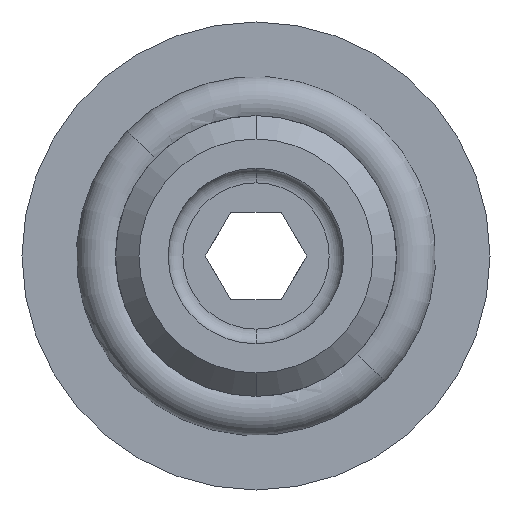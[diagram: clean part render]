
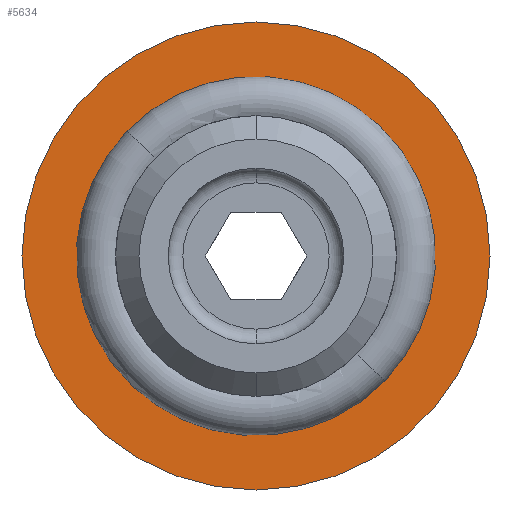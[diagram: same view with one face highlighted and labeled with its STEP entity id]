
A CAD part, front view. The second image highlights one B-rep face of the part: STEP entity #5634.
In plain terms, the highlighted planar face has unit normal (0, -1, 0).
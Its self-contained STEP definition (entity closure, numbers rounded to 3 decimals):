
#233 = CIRCLE ( 'NONE', #4922, 6.138 ) ;
#325 = DIRECTION ( 'NONE',  ( 0., 0., -1. ) ) ;
#383 = CARTESIAN_POINT ( 'NONE',  ( -4.403, 6., 4.277 ) ) ;
#590 = CIRCLE ( 'NONE', #4461, 8. ) ;
#657 = VERTEX_POINT ( 'NONE', #797 ) ;
#775 = DIRECTION ( 'NONE',  ( 0., 1., 0. ) ) ;
#797 = CARTESIAN_POINT ( 'NONE',  ( 0., 6., -8. ) ) ;
#1952 = CARTESIAN_POINT ( 'NONE',  ( -7.326, 6., 0. ) ) ;
#2191 = CARTESIAN_POINT ( 'NONE',  ( 0., 6., 0. ) ) ;
#2278 = DIRECTION ( 'NONE',  ( 0., -1., 0. ) ) ;
#2387 = FACE_BOUND ( 'NONE', #3771, .T. ) ;
#2431 = AXIS2_PLACEMENT_3D ( 'NONE', #3628, #2278, #4038 ) ;
#2473 = DIRECTION ( 'NONE',  ( 0., -1., 0. ) ) ;
#2484 = VERTEX_POINT ( 'NONE', #383 ) ;
#2510 = AXIS2_PLACEMENT_3D ( 'NONE', #1952, #5207, #4760 ) ;
#2734 = ORIENTED_EDGE ( 'NONE', *, *, #4495, .T. ) ;
#2906 = VERTEX_POINT ( 'NONE', #4574 ) ;
#2918 = ORIENTED_EDGE ( 'NONE', *, *, #3878, .T. ) ;
#2938 = CARTESIAN_POINT ( 'NONE',  ( 0., 6., 0. ) ) ;
#2939 = FACE_OUTER_BOUND ( 'NONE', #5434, .T. ) ;
#3014 = DIRECTION ( 'NONE',  ( 0., 0., -1. ) ) ;
#3088 = EDGE_CURVE ( 'NONE', #657, #2906, #3638, .T. ) ;
#3099 = ORIENTED_EDGE ( 'NONE', *, *, #3088, .T. ) ;
#3409 = PLANE ( 'NONE',  #2510 ) ;
#3628 = CARTESIAN_POINT ( 'NONE',  ( 0., 6., 0. ) ) ;
#3638 = CIRCLE ( 'NONE', #2431, 8. ) ;
#3771 = EDGE_LOOP ( 'NONE', ( #3907, #2918 ) ) ;
#3786 = DIRECTION ( 'NONE',  ( 0., 0., -1. ) ) ;
#3878 = EDGE_CURVE ( 'NONE', #2484, #5123, #5209, .T. ) ;
#3907 = ORIENTED_EDGE ( 'NONE', *, *, #4997, .T. ) ;
#4038 = DIRECTION ( 'NONE',  ( 0., 0., -1. ) ) ;
#4461 = AXIS2_PLACEMENT_3D ( 'NONE', #5140, #2473, #3786 ) ;
#4495 = EDGE_CURVE ( 'NONE', #2906, #657, #590, .T. ) ;
#4574 = CARTESIAN_POINT ( 'NONE',  ( 0., 6., 8. ) ) ;
#4759 = CARTESIAN_POINT ( 'NONE',  ( 4.403, 6., -4.277 ) ) ;
#4760 = DIRECTION ( 'NONE',  ( 0., 0., -1. ) ) ;
#4823 = AXIS2_PLACEMENT_3D ( 'NONE', #2191, #5253, #3014 ) ;
#4922 = AXIS2_PLACEMENT_3D ( 'NONE', #2938, #775, #325 ) ;
#4997 = EDGE_CURVE ( 'NONE', #5123, #2484, #233, .T. ) ;
#5123 = VERTEX_POINT ( 'NONE', #4759 ) ;
#5140 = CARTESIAN_POINT ( 'NONE',  ( 0., 6., 0. ) ) ;
#5207 = DIRECTION ( 'NONE',  ( 0., -1., 0. ) ) ;
#5209 = CIRCLE ( 'NONE', #4823, 6.138 ) ;
#5253 = DIRECTION ( 'NONE',  ( 0., 1., 0. ) ) ;
#5434 = EDGE_LOOP ( 'NONE', ( #3099, #2734 ) ) ;
#5634 = ADVANCED_FACE ( 'NONE', ( #2939, #2387 ), #3409, .T. ) ;
